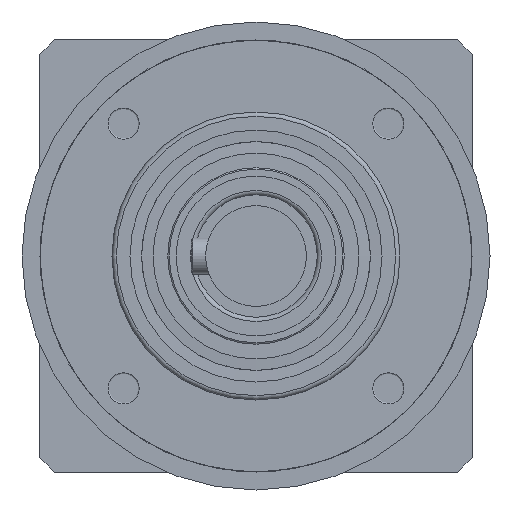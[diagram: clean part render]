
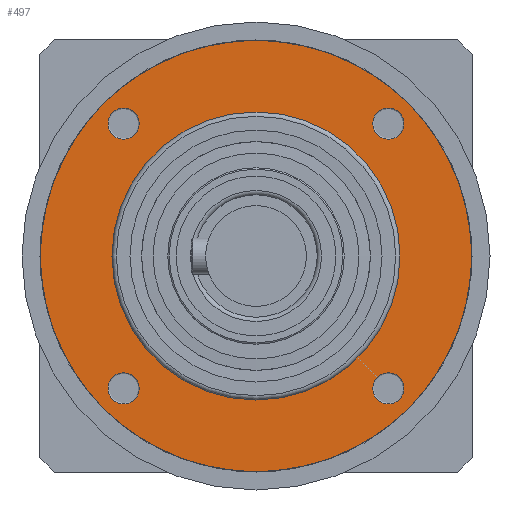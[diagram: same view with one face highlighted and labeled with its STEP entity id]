
A CAD part, left-side view. The second image highlights one B-rep face of the part: STEP entity #497.
In plain terms, the highlighted planar face has unit normal (-1, 0, 0).
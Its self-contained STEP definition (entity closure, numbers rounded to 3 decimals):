
#334=FACE_BOUND('',#766,.T.);
#335=FACE_BOUND('',#767,.T.);
#336=FACE_BOUND('',#768,.T.);
#337=FACE_BOUND('',#769,.T.);
#497=ADVANCED_FACE('',(#334,#335,#336,#337,#678),#630,.T.);
#630=PLANE('',#1814);
#678=FACE_OUTER_BOUND('',#770,.T.);
#766=EDGE_LOOP('',(#1000));
#767=EDGE_LOOP('',(#1001));
#768=EDGE_LOOP('',(#1002));
#769=EDGE_LOOP('',(#1003));
#770=EDGE_LOOP('',(#1004));
#1000=ORIENTED_EDGE('',*,*,#1508,.T.);
#1001=ORIENTED_EDGE('',*,*,#1509,.T.);
#1002=ORIENTED_EDGE('',*,*,#1510,.T.);
#1003=ORIENTED_EDGE('',*,*,#1511,.T.);
#1004=ORIENTED_EDGE('',*,*,#1512,.T.);
#1348=VERTEX_POINT('',#2633);
#1349=VERTEX_POINT('',#2635);
#1350=VERTEX_POINT('',#2637);
#1351=VERTEX_POINT('',#2639);
#1352=VERTEX_POINT('',#2641);
#1508=EDGE_CURVE('',#1348,#1348,#1684,.T.);
#1509=EDGE_CURVE('',#1349,#1349,#1685,.T.);
#1510=EDGE_CURVE('',#1350,#1350,#1686,.T.);
#1511=EDGE_CURVE('',#1351,#1351,#1687,.T.);
#1512=EDGE_CURVE('',#1352,#1352,#1688,.T.);
#1684=CIRCLE('',#1809,2.175);
#1685=CIRCLE('',#1810,2.175);
#1686=CIRCLE('',#1811,2.175);
#1687=CIRCLE('',#1812,2.175);
#1688=CIRCLE('',#1813,30.);
#1809=AXIS2_PLACEMENT_3D('',#2632,#2074,#2075);
#1810=AXIS2_PLACEMENT_3D('',#2634,#2076,#2077);
#1811=AXIS2_PLACEMENT_3D('',#2636,#2078,#2079);
#1812=AXIS2_PLACEMENT_3D('',#2638,#2080,#2081);
#1813=AXIS2_PLACEMENT_3D('',#2640,#2082,#2083);
#1814=AXIS2_PLACEMENT_3D('',#2642,#2084,#2085);
#2074=DIRECTION('',(1.,0.,0.));
#2075=DIRECTION('',(0.,-0.707,-0.707));
#2076=DIRECTION('',(1.,0.,0.));
#2077=DIRECTION('',(0.,0.707,-0.707));
#2078=DIRECTION('',(1.,0.,0.));
#2079=DIRECTION('',(0.,0.707,0.707));
#2080=DIRECTION('',(1.,0.,0.));
#2081=DIRECTION('',(0.,-0.707,0.707));
#2082=DIRECTION('',(-1.,0.,0.));
#2083=DIRECTION('',(0.,-0.707,0.707));
#2084=DIRECTION('',(-1.,0.,0.));
#2085=DIRECTION('',(0.,-0.707,0.707));
#2632=CARTESIAN_POINT('',(-74.25,-18.385,18.385));
#2633=CARTESIAN_POINT('',(-74.25,-19.923,16.847));
#2634=CARTESIAN_POINT('',(-74.25,-18.385,-18.385));
#2635=CARTESIAN_POINT('',(-74.25,-16.847,-19.923));
#2636=CARTESIAN_POINT('',(-74.25,18.385,-18.385));
#2637=CARTESIAN_POINT('',(-74.25,19.923,-16.847));
#2638=CARTESIAN_POINT('',(-74.25,18.385,18.385));
#2639=CARTESIAN_POINT('',(-74.25,16.847,19.923));
#2640=CARTESIAN_POINT('',(-74.25,0.,0.));
#2641=CARTESIAN_POINT('',(-74.25,-21.213,21.213));
#2642=CARTESIAN_POINT('',(-74.25,0.,0.));
